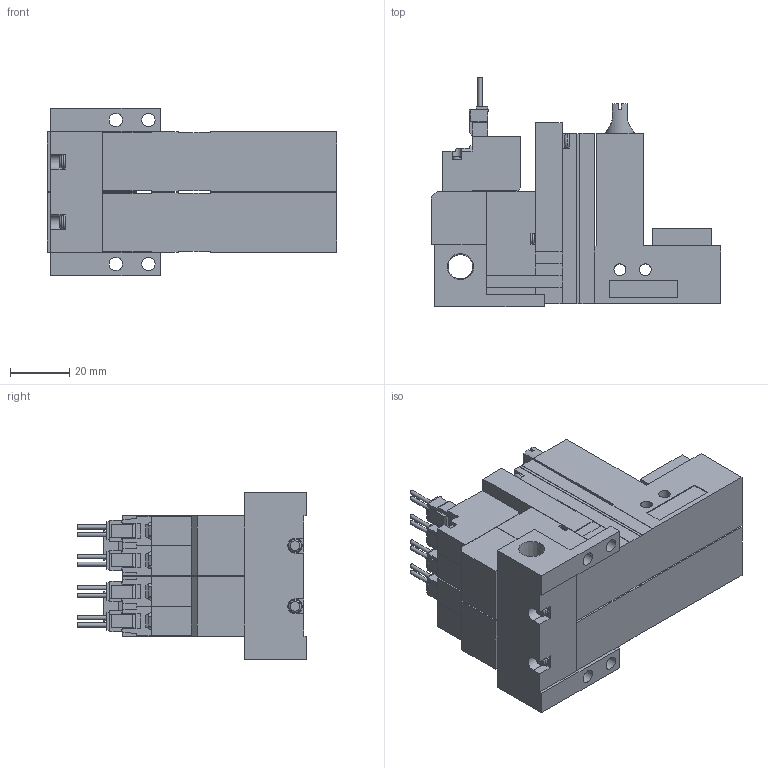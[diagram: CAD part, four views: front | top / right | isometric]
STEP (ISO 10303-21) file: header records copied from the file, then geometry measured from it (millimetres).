
FILE_DESCRIPTION(('STEP AP203'),'1');
FILE_NAME('ZLC5BLR202.stp','2025-02-18T06:23:49',(' '),(' '),'Spatial InterOp 3D',' ',' ');
FILE_SCHEMA(('CONFIG_CONTROL_DESIGN'));
Length unit declared in the file: millimetre
Products named in the file (5): BMC22M※※※※ZLC5BLR202; Solenoid valve B; Pressure sensor ZLC; Unit LC; Base MR20R
Assembly tree (7 placements, depth 2):
  BMC22M※※※※ZLC5BLR202
    Solenoid valve B  x2
    Pressure sensor ZLC  x2
    Unit LC  x2
    Base MR20R
Bounding box: 97.6 x 77.45 x 56.5 mm (x, y, z)
Volume: 181906 mm3; surface area: 49384.3 mm2
Topology: 7 solids, 7 shells, 737 faces, 2005 edges, 1318 vertices
Faces by surface type: plane 634, cylinder 77, cone 16, torus 10
Full cylindrical faces by diameter (mm): 1.4 x8, 2.5 x2, 3 x8, 3.5 x8, 3.6 x2, 4 x4, 4.134 x2, 4.5 x4, 5.2 x2, 6 x2, 6.6 x2, 8.279 x1
Entity records: 12394 total; most frequent: CARTESIAN_POINT 2331, ORIENTED_EDGE 2004, DIRECTION 1942, EDGE_CURVE 1002, LINE 854, VECTOR 854, VERTEX_POINT 687, AXIS2_PLACEMENT_3D 544
